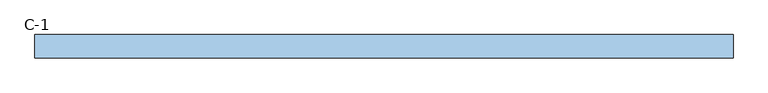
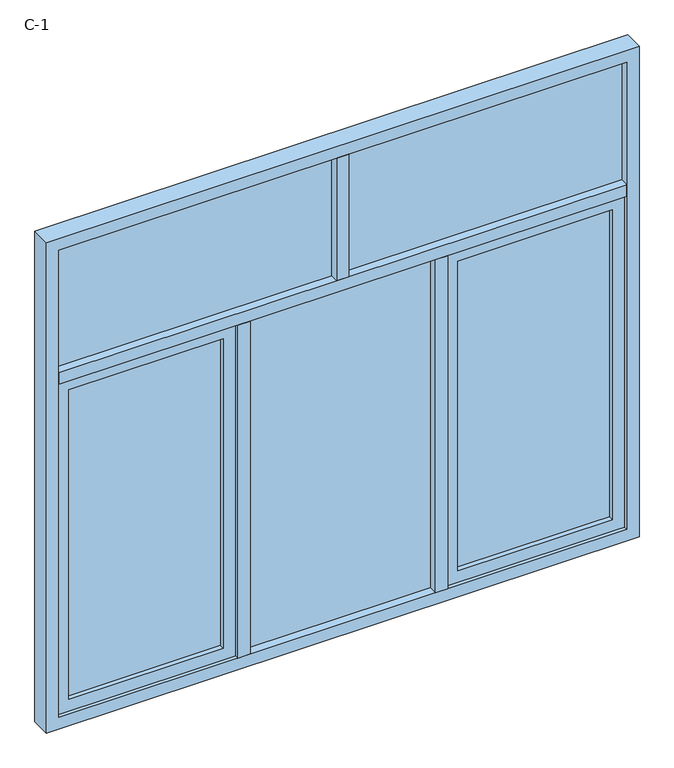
"""IFC4 building model written with IfcOpenShell, lengths in millimetres: window geometry, 组合窗 - 双层三列(平开+固定+平开) - 上部双扇 : C-1."""

from ifc_helpers import new_model, si_unit, frame, origin, place, context, project, spatial, polyline, outline, extrude, source, transform, mapped, element, save


def c_1_30db215e(model_context):
    return source(origin(), model_context, "Body", "SweptSolid", [
        extrude(outline(polyline([(-25.0, -10.0), (-25.0, -20.0), (-1150.0, -20.0), (-1150.0, -10.0), (-25.0, -10.0)])), frame((0.0, 0.0, 2425.0), z_axis=(0.0, 0.0, 1.0), x_axis=(1.0, 0.0, 0.0)), (0.0, 0.0, 1.0), 525.0),
        extrude(outline(polyline([(375.0, -10.0), (375.0, -20.0), (-375.0, -20.0), (-375.0, -10.0), (375.0, -10.0)])), frame((0.0, 0.0, 950.0), z_axis=(0.0, 0.0, 1.0), x_axis=(1.0, 0.0, 0.0)), (0.0, 0.0, 1.0), 1425.0),
        extrude(outline(polyline([(1150.0, -10.0), (1150.0, -20.0), (25.0, -20.0), (25.0, -10.0), (1150.0, -10.0)])), frame((0.0, 0.0, 2425.0), z_axis=(0.0, 0.0, 1.0), x_axis=(1.0, 0.0, 0.0)), (0.0, 0.0, 1.0), 525.0),
        extrude(outline(polyline([(-475.0, -10.0), (-475.0, -20.0), (-1100.0, -20.0), (-1100.0, -10.0), (-475.0, -10.0)])), frame((0.0, 0.0, 1000.0), z_axis=(0.0, 0.0, 1.0), x_axis=(1.0, 0.0, 0.0)), (0.0, 0.0, 1.0), 1325.0),
        extrude(outline(polyline([(950.0, -425.0), (2375.0, -425.0), (2375.0, -1150.0), (950.0, -1150.0), (950.0, -425.0)]), holes=[polyline([(2325.0, -475.0), (1000.0, -475.0), (1000.0, -1100.0), (2325.0, -1100.0), (2325.0, -475.0)])]), frame((0.0, -40.0, 0.0), z_axis=(0.0, 1.0, 0.0), x_axis=(0.0, 0.0, 1.0)), (0.0, 0.0, 1.0), 50.0),
        extrude(outline(polyline([(1100.0, -10.0), (1100.0, -20.0), (475.0, -20.0), (475.0, -10.0), (1100.0, -10.0)])), frame((0.0, 0.0, 1000.0), z_axis=(0.0, 0.0, 1.0), x_axis=(1.0, 0.0, 0.0)), (0.0, 0.0, 1.0), 1325.0),
        extrude(outline(polyline([(950.0, 1150.0), (2375.0, 1150.0), (2375.0, 425.0), (950.0, 425.0), (950.0, 1150.0)]), holes=[polyline([(2325.0, 1100.0), (1000.0, 1100.0), (1000.0, 475.0), (2325.0, 475.0), (2325.0, 1100.0)])]), frame((0.0, -40.0, 0.0), z_axis=(0.0, 1.0, 0.0), x_axis=(0.0, 0.0, 1.0)), (0.0, 0.0, 1.0), 50.0),
        extrude(outline(polyline([(-25.0, -55.0), (-25.0, 25.0), (25.0, 25.0), (25.0, -55.0), (-25.0, -55.0)])), frame((0.0, 0.0, 2425.0), z_axis=(0.0, 0.0, 1.0), x_axis=(1.0, 0.0, 0.0)), (0.0, 0.0, 1.0), 525.0),
        extrude(outline(polyline([(375.0, -55.0), (375.0, 25.0), (425.0, 25.0), (425.0, -55.0), (375.0, -55.0)])), frame((0.0, 0.0, 950.0), z_axis=(0.0, 0.0, 1.0), x_axis=(1.0, 0.0, 0.0)), (0.0, 0.0, 1.0), 1425.0),
        extrude(outline(polyline([(-425.0, -55.0), (-425.0, 25.0), (-375.0, 25.0), (-375.0, -55.0), (-425.0, -55.0)])), frame((0.0, 0.0, 950.0), z_axis=(0.0, 0.0, 1.0), x_axis=(1.0, 0.0, 0.0)), (0.0, 0.0, 1.0), 1425.0),
        extrude(outline(polyline([(-1150.0, -55.0), (-1150.0, 25.0), (1150.0, 25.0), (1150.0, -55.0), (-1150.0, -55.0)])), frame((0.0, 0.0, 2375.0), z_axis=(0.0, 0.0, 1.0), x_axis=(1.0, 0.0, 0.0)), (0.0, 0.0, 1.0), 50.0),
        extrude(outline(polyline([(3000.0, 1200.0), (3000.0, -1200.0), (900.0, -1200.0), (900.0, 1200.0), (3000.0, 1200.0)]), holes=[polyline([(2950.0, -1150.0), (2950.0, 1150.0), (950.0, 1150.0), (950.0, -1150.0), (2950.0, -1150.0)])]), frame((0.0, -55.0, 0.0), z_axis=(0.0, 1.0, 0.0), x_axis=(0.0, 0.0, 1.0)), (0.0, 0.0, 1.0), 80.0),
    ])


if __name__ == "__main__":
    model = new_model("IFC4")
    model_context = context("Model", 3, world=origin())
    ifc_project = project(units=[si_unit("LENGTHUNIT", "METRE", prefix="MILLI")], contexts=[model_context])
    site = spatial("IfcSite", under=ifc_project)
    building = spatial("IfcBuilding", under=site)
    placement = place(None, origin())
    c_1_shape = c_1_30db215e(model_context)
    element("IfcWindow", 1, ObjectType="组合窗 - 双层三列(平开+固定+平开) - 上部双扇 : C-1", at=placement, inside=building, context=model_context, shape_type="MappedRepresentation", body=[
        mapped(c_1_shape, transform((0.0, 0.0, 0.0), x_axis=(1.0, 0.0, 0.0), y_axis=(0.0, 1.0, 0.0), z_axis=(0.0, 0.0, 1.0))),
    ])
    save(model, "model.ifc")
